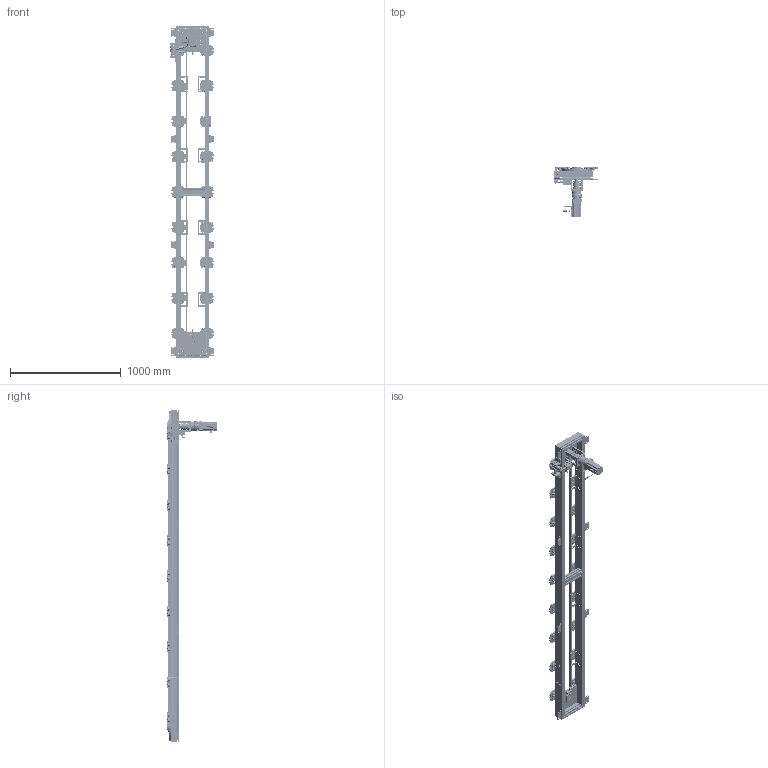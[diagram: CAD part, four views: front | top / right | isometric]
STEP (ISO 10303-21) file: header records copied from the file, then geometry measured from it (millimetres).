
FILE_DESCRIPTION (( 'STEP AP214' ), '1' );
FILE_NAME ('2.10-ZJKJ-Y1.STEP', '2023-02-11T00:13:45', ( '微软用户' ), ( '微软中国' ), 'SwSTEP 2.0', 'SolidWorks 2016', '' );
FILE_SCHEMA (( 'AUTOMOTIVE_DESIGN' ));
Length unit declared in the file: millimetre
Products named in the file (68): 2.10-ZJKJ-SC21-FAA01-TB1-6006U倰鎮湛盓殤; 2.10-ZJKJ-E2B_S08LN04_WP_C1（NPN）; 2.10-ZJKJ-单定位摆臂组-型材外; 2.10-ZJKJ-萇儂750W; 2.10-ZJKJ-SC21-BBA02-TB1-255植雄謫; 2.10-ZJKJ-联轴器68-75-22-22-6T; 2.10-ZJKJ-籵蚚桲踡郪; 2.10-ZJKJ-SC21-EFA01-TB1-型材感应开关支架-定位; 2.10-ZJKJ-SC21-DGA01-TB1-6006植雄粣傷裔; 2.10-ZJKJ-SC21-AGA01-TB1-幗謫脹詢菜え; 2.10-ZJKJ-SC21-EEB02-TB1-隅弇啊旋; 2.10-ZJKJ-熬厒儂DAB90-L2; 2.10-ZJKJ-SC21-DHB01-TB1-桲踡蜇璃; 2.10-ZJKJ-SC21-DBB01-TB1-6006湍謫翋雄粣陑; 2.10-ZJKJ-SC21-ECB01-TB1-ァ詰蟀諉粣; 2.10-ZJKJ-6003; 2.10-ZJKJ-SC20-BQB01-HA1 植雄菁啣255; 2.10-ZJKJ-255-々湍苤陬郪; 2.10-ZJKJ-SC19-AIA01-LA1-幗謫蚳蚚蹟譫; 2.10-ZJKJ-SC21-DAB01-TB1-翋雄粣創釱6006; 2.10-ZJKJ-随动器16_KRV 168; 2.10-ZJKJ-SC21-ADA02-TB1-々湍蟀諉蜇璃; 2.10-ZJKJ-隅弇郪赶桉粣創-m8-30; 2.10-ZJKJ-SC21-AMA01-TB1-蚐碟; 2.10-ZJKJ-SC21-BDA01-TB1-々湍結啣; 2.10-ZJKJ-6006-2Z; 2.10-ZJKJ-SC21-GAA02-TB1-笢潔倰第255; 2.10-ZJKJ-ACQ 32×20S_ACQ32-100超薄气缸_ACQ 32×20-1; 2.10-ZJKJ-SC19-AHA01-LA1-幗謫蚳蚚菜え; 2.10-ZJKJ-SC21-EGA01-TB1-等啊旋嫖粣; 2.10-ZJKJ-255翋雄謫郪; 2.10-ZJKJ-750W萇儂郪; 2.10-ZJKJ-SC21-EEA02-TB1-雄薯啊旋; 2.10-ZJKJ-SC21-CCB02-TB1-型材皮带挡板-链槽支架; 2.10-ZJKJ-SC21-APA01-TB1-々湍諶璃; 2.10-ZJKJ-SC20-BBB01-HA1 翋雄菁啣255; 2.10-ZJKJ-SC21-DHA01-TB1-桲踡輸; 2.10-ZJKJ-255湍謫GMP郪; 2.10-ZJKJ-々湍結啣郪璃; 2.10-ZJKJ-SC21-GCB03-TB1-L倰嘐隅璃-祥凄詩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
Assembly tree (153 placements, depth 4):
  2.10-ZJKJ-Y1
    2.10-ZJKJ-255湍謫GMP郪
      2.10-ZJKJ-SC19-ABA01-LA1-眻寢酗僅A  x2
      2.10-ZJKJ-SC21-ACB02-TB1-轻载环轨255  x2
      2.10-ZJKJ-255-々湍苤陬郪  x17
        2.10-ZJKJ-SC21-AAA-TB1-苤陬啣255
        2.10-ZJKJ-SC21-AEA01-TB1-摆臂式定位附件-外
        2.10-ZJKJ-SC21-AGA01-TB1-幗謫脹詢菜え
        2.10-ZJKJ-SC21-AMA01-TB1-蚐碟
        2.10-ZJKJ-SC19-AFA01-LA1-幗謫
        2.10-ZJKJ-SC19-ANA01-LA1-肮陑幗謫粣
        2.10-ZJKJ-SC19-AOA01-LA1-ぇ陑幗謫粣
        2.10-ZJKJ-SC19-AIA01-LA1-幗謫蚳蚚蹟譫
        2.10-ZJKJ-SC19-AHA01-LA1-幗謫蚳蚚菜え
        2.10-ZJKJ-SC21-ADA02-TB1-々湍蟀諉蜇璃
        2.10-ZJKJ-SC21-ANA01-TB1-鬥芛M8蹟裝
        2.10-ZJKJ-SC21-APA01-TB1-々湍諶璃
      2.10-ZJKJ-255-々湍苤陬郪
        2.10-ZJKJ-SC21-AAA-TB1-苤陬啣255
        2.10-ZJKJ-SC21-AGA01-TB1-幗謫脹詢菜え  x4
        2.10-ZJKJ-SC21-AMA01-TB1-蚐碟  x2
        2.10-ZJKJ-SC19-AFA01-LA1-幗謫  x4
        2.10-ZJKJ-SC19-ANA01-LA1-肮陑幗謫粣  x2
        2.10-ZJKJ-SC19-AOA01-LA1-ぇ陑幗謫粣  x2
        2.10-ZJKJ-SC19-AIA01-LA1-幗謫蚳蚚蹟譫  x4
        2.10-ZJKJ-SC19-AHA01-LA1-幗謫蚳蚚菜え  x4
        2.10-ZJKJ-SC21-ADA02-TB1-々湍蟀諉蜇璃
        2.10-ZJKJ-SC21-ANA01-TB1-鬥芛M8蹟裝  x2
        2.10-ZJKJ-SC21-APA01-TB1-々湍諶璃
    2.10-ZJKJ-255-邳埴倰第郪
      2.10-ZJKJ-4080倰第酗晚-255  x2
      2.10-ZJKJ-SC21-GAA02-TB1-笢潔倰第255
      2.10-ZJKJ-SC21-GBA02-TB1-眻晚倰第255  x2
    2.10-ZJKJ-单定位摆臂组-型材外
      2.10-ZJKJ-SC21-EAA01-TB1-倰第ァ詰粣創釱-俋_BHLC6003ZZ-40-KCA  x2
      2.10-ZJKJ-SC21-ECA01-TB1-啊旋蟀諉粣
      2.10-ZJKJ-SC21-ECB01-TB1-ァ詰蟀諉粣
      2.10-ZJKJ-SC21-EEA02-TB1-雄薯啊旋
      2.10-ZJKJ-SC21-EEB02-TB1-隅弇啊旋
      2.10-ZJKJ-SC21-EDA02-TB1-ァ詰蟀諉等嫉
      2.10-ZJKJ-SC21-EDB02-TB1-ァ詰蟀諉邧嫉
      2.10-ZJKJ-SC21-EGA01-TB1-等啊旋嫖粣
      2.10-ZJKJ-6003  x2
      2.10-ZJKJ-ACQ 32×20S_ACQ32-100超薄气缸_ACQ 32×20-1
      2.10-ZJKJ-隅弇郪赶桉粣創-m8-30
      2.10-ZJKJ-随动器16_KRV 168
    2.10-ZJKJ-255翋雄謫郪
      2.10-ZJKJ-SC21-DAB01-TB1-翋雄粣創釱6006
      2.10-ZJKJ-SC21-DBB01-TB1-6006湍謫翋雄粣陑
      2.10-ZJKJ-6006-2Z  x2
      2.10-ZJKJ-籵蚚桲踡郪
        2.10-ZJKJ-SC21-DHA01-TB1-桲踡輸
        2.10-ZJKJ-SC21-DHB01-TB1-桲踡蜇璃
        2.10-ZJKJ-SC21-DHC01-TB1-桲踡蹟佪
      2.10-ZJKJ-SC21-DDA02-TB1-M27-3.0滅侂蹟譫
      2.10-ZJKJ-SC21-DCA01-TB1-翋雄粣傷裔-255
      2.10-ZJKJ-SC21-BAA02-TB1-翋雄謫36C_AT10x40-20A
      2.10-ZJKJ-SC21-BCA02-TB1-皮带挡圈255  x2
    2.10-ZJKJ-255植雄謫郪-倰第
      2.10-ZJKJ-6006植雄郪-倰第
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Bounding box: 407 x 458.3 x 3003.12 mm (x, y, z)
Volume: 20473875.1 mm3; surface area: 7921153.6 mm2
Topology: 650 solids, 653 shells, 21554 faces, 54253 edges, 34507 vertices
Faces by surface type: plane 10562, cylinder 7045, bspline 2740, cone 993, torus 187, sphere 27
Entity records: 164701 total; most frequent: CARTESIAN_POINT 51070, ORIENTED_EDGE 23012, DIRECTION 22141, EDGE_CURVE 11506, AXIS2_PLACEMENT_3D 8137, VERTEX_POINT 7546, VECTOR 5867, LINE 5867
